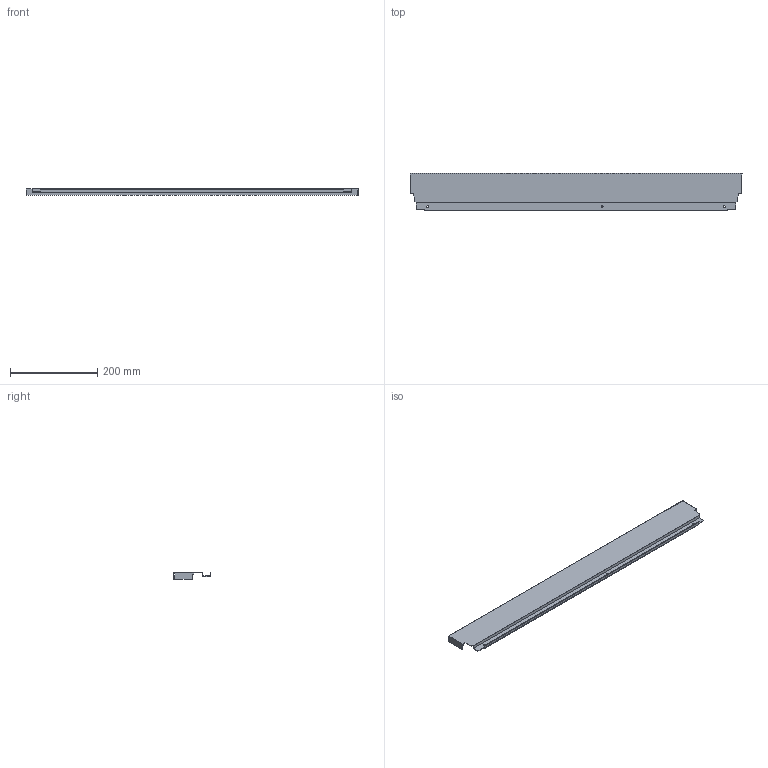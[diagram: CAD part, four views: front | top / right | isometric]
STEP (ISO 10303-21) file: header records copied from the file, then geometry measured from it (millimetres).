
FILE_DESCRIPTION (( 'STEP AP214' ), '1' );
FILE_NAME ('_DWD_XP Stahlrückwand_H86_KAB850_S19.step', '2010-07-08T12:10:38', ( 'grass' ), ( '' ), 'SwSTEP 2.0', 'SolidWorks 2010', '' );
FILE_SCHEMA (( 'AUTOMOTIVE_DESIGN' ));
Length unit declared in the file: millimetre
Products named in the file (1): _DWD_XP Stahlrückwand_H86_KAB850_S19
Bounding box: 763 x 85.79 x 16 mm (x, y, z)
Volume: 81699.1 mm3; surface area: 177449 mm2
Topology: 1 solids, 1 shells, 50 faces, 144 edges, 96 vertices
Faces by surface type: plane 44, cylinder 6
Entity records: 1666 total; most frequent: CARTESIAN_POINT 291, ORIENTED_EDGE 288, DIRECTION 258, EDGE_CURVE 144, VECTOR 132, LINE 132, VERTEX_POINT 96, AXIS2_PLACEMENT_3D 63
